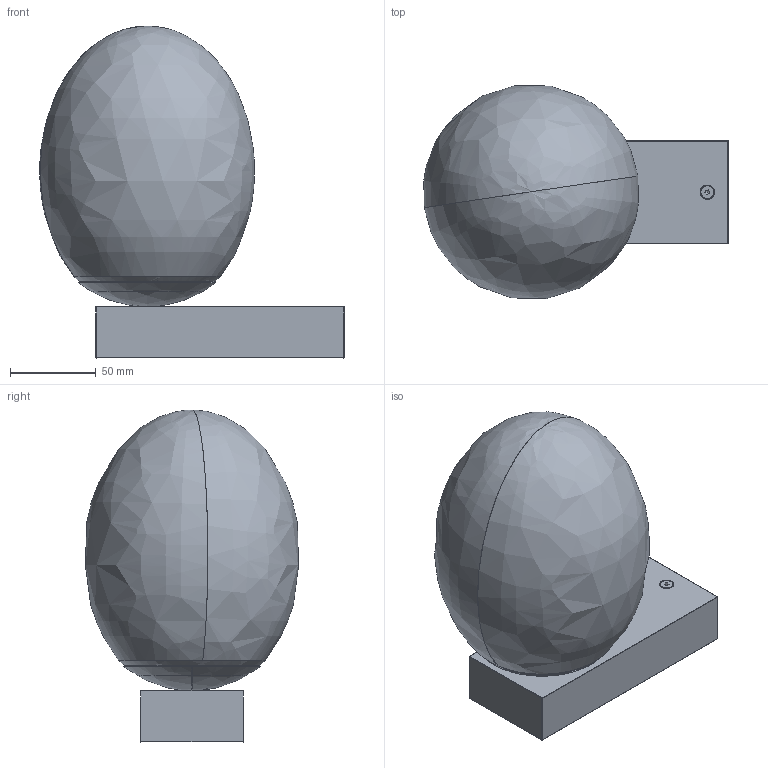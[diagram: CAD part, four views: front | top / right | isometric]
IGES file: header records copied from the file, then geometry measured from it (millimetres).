
Start section: SolidWorks IGES file using NURBS representation for surfaces
Global section: file name: Z:\Modele 3D_WWW\_KOLEKCJE_WWW\ICE-EGG\ICE-EGG-C-8132\ICE-EGG-C-8132.IGS; native system: SolidWorks 2021; preprocessor: SolidWorks 2021; author: gabriela.tworek; date: 210928.112252; units: millimetre
Bounding box: 177.64 x 124.31 x 193.67 mm (x, y, z)
Surface area: 181353.8 mm2 (no closed solid volume)
Topology: 0 solids, 0 shells, 91 faces, 1140 edges, 1124 vertices
Faces by surface type: bspline 91
